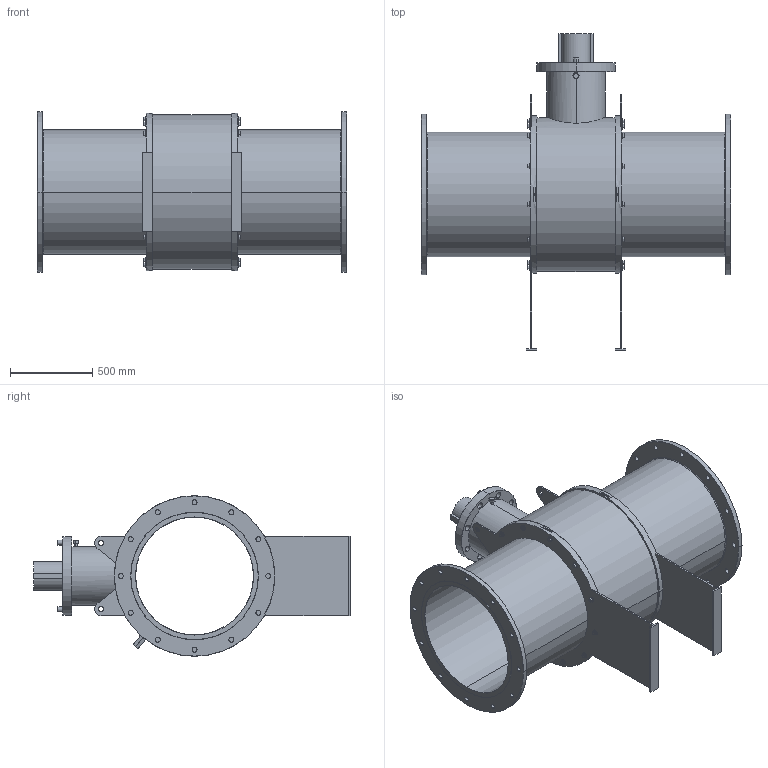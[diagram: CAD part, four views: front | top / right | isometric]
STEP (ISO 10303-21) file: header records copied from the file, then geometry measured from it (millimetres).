
FILE_DESCRIPTION (( 'STEP AP203' ), '1' );
FILE_NAME ('GB2_ANSI_900_30IN_TW.STEP', '2025-10-09T15:17:59', ( '' ), ( '' ), 'SwSTEP 2.0', 'SolidWorks 2025', '' );
FILE_SCHEMA (( 'CONFIG_CONTROL_DESIGN' ));
Length unit declared in the file: millimetre
Products named in the file (3): GB2_ANSI_900_30IN_TW; GB2_ANSI_2500_1500_ANSI_900_30IN; hex flange screw_am_B18.2.3.4M - Hex flange screw, M16 x 2.0 x 25 --25N
Assembly tree (25 placements, depth 2):
  GB2_ANSI_900_30IN_TW
    GB2_ANSI_2500_1500_ANSI_900_30IN
    hex flange screw_am_B18.2.3.4M - Hex flange screw, M16 x 2.0 x 25 --25N  x24
Bounding box: 1880 x 1921 x 974.4 mm (x, y, z)
Volume: 287449336.3 mm3; surface area: 13008929.2 mm2
Topology: 25 solids, 25 shells, 1041 faces, 2326 edges, 1392 vertices
Faces by surface type: plane 325, cone 270, cylinder 230, bspline 156, torus 54, sphere 6
Entity records: 14035 total; most frequent: CARTESIAN_POINT 4018, DIRECTION 2022, ORIENTED_EDGE 1792, EDGE_CURVE 896, AXIS2_PLACEMENT_3D 820, VERTEX_POINT 562, EDGE_LOOP 492, CIRCLE 436
